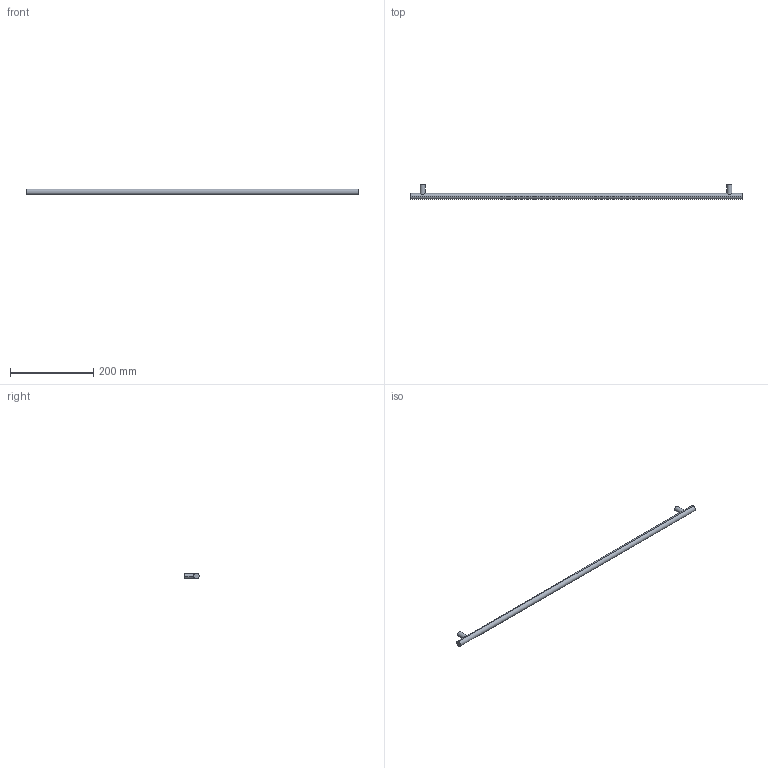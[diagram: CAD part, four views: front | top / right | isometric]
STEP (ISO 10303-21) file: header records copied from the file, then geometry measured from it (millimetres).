
FILE_DESCRIPTION( ( '' ), '1' );
FILE_NAME( 'D:/1.AUTOCAD EXPORT/Group 10/sheet_10_1/9071115.stp', '2013-10-21T10:30:29', ( '' ), ( '' ), ' ', ' ', ' ' );
FILE_SCHEMA( ( 'automotive_design' ) );
Length unit declared in the file: millimetre
Products named in the file (1): 1
Bounding box: 796 x 35 x 14 mm (x, y, z)
Volume: 127146.7 mm3; surface area: 37289.6 mm2
Topology: 1 solids, 1 shells, 16 faces, 32 edges, 22 vertices
Faces by surface type: cylinder 10, plane 6
Entity records: 972 total; most frequent: CARTESIAN_POINT 205, DIRECTION 76, STYLED_ITEM 71, PRESENTATION_STYLE_ASSIGNMENT 71, COLOUR_RGB 71, ORIENTED_EDGE 64, AXIS2_PLACEMENT_3D 33, EDGE_CURVE 32
